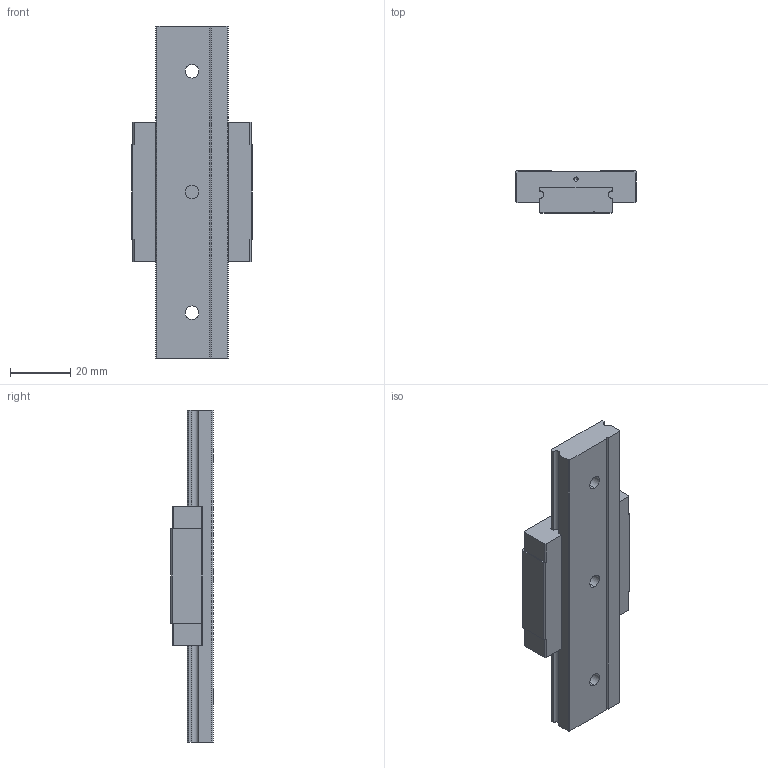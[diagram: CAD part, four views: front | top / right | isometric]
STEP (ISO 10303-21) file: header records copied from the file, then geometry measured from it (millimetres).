
FILE_DESCRIPTION (( 'STEP AP214' ), '1' );
FILE_NAME ('7.1063 Lineaarikelkka MTW12C.STEP', '2026-03-16T07:54:12', ( '' ), ( '' ), 'SwSTEP 2.0', 'SolidWorks 2025', '' );
FILE_SCHEMA (( 'AUTOMOTIVE_DESIGN' ));
Length unit declared in the file: millimetre
Products named in the file (1): 7.1063 Lineaarikelkka MTW12C
Bounding box: 40 x 14 x 110 mm (x, y, z)
Volume: 34520.6 mm3; surface area: 14209.8 mm2
Topology: 2 solids, 2 shells, 209 faces, 558 edges, 362 vertices
Faces by surface type: plane 134, cylinder 33, bspline 30, cone 12
Entity records: 10705 total; most frequent: CARTESIAN_POINT 3352, ORIENTED_EDGE 1092, DIRECTION 912, EDGE_CURVE 546, LINE 420, VECTOR 420, VERTEX_POINT 362, AXIS2_PLACEMENT_3D 246
